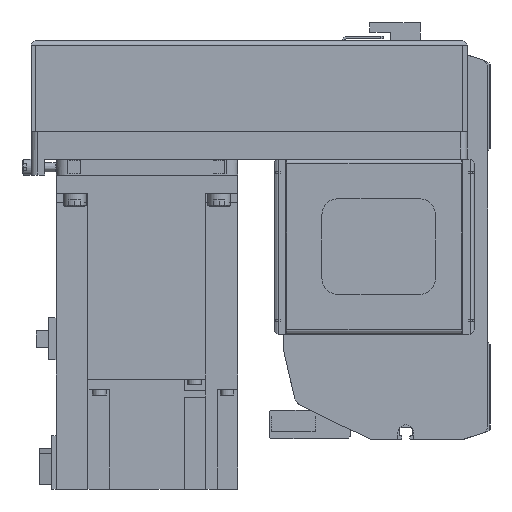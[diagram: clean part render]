
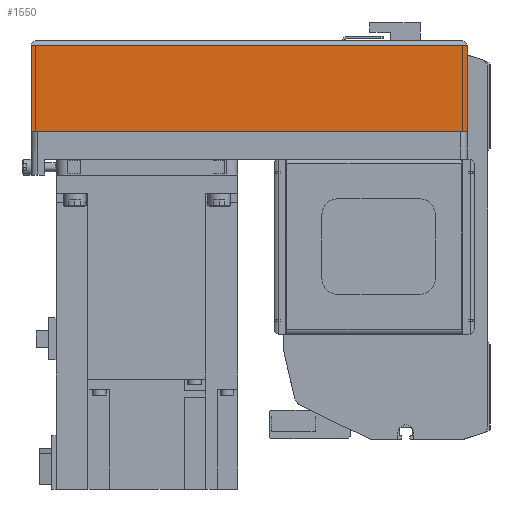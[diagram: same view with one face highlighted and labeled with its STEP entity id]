
A CAD part, left-side view. The second image highlights one B-rep face of the part: STEP entity #1550.
In plain terms, the highlighted planar face has unit normal (-1, 0, 0) as drawn and (0, 1, 0) by its records, which use the part's own axes.
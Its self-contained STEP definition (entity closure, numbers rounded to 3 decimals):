
#1550 = ADVANCED_FACE( '', ( #3986 ), #3987, .T. );
#3986 = FACE_OUTER_BOUND( '', #7542, .T. );
#3987 = PLANE( '', #7543 );
#7542 = EDGE_LOOP( '', ( #11936, #11937, #11938, #11939 ) );
#7543 = AXIS2_PLACEMENT_3D( '', #11940, #11941, #11942 );
#11936 = ORIENTED_EDGE( '', *, *, #20899, .F. );
#11937 = ORIENTED_EDGE( '', *, *, #20900, .F. );
#11938 = ORIENTED_EDGE( '', *, *, #20370, .T. );
#11939 = ORIENTED_EDGE( '', *, *, #20901, .T. );
#11940 = CARTESIAN_POINT( '', ( -192., 40., -50. ) );
#11941 = DIRECTION( '', ( 0., 1., 0. ) );
#11942 = DIRECTION( '', ( 0., 0., 1. ) );
#20370 = EDGE_CURVE( '', #24323, #24328, #24330, .T. );
#20899 = EDGE_CURVE( '', #24315, #25253, #25254, .T. );
#20900 = EDGE_CURVE( '', #24323, #24315, #25255, .T. );
#20901 = EDGE_CURVE( '', #24328, #25253, #25256, .T. );
#24315 = VERTEX_POINT( '', #30204 );
#24323 = VERTEX_POINT( '', #30214 );
#24328 = VERTEX_POINT( '', #30221 );
#24330 = LINE( '', #30224, #30225 );
#25253 = VERTEX_POINT( '', #31521 );
#25254 = LINE( '', #31522, #31523 );
#25255 = LINE( '', #31524, #31525 );
#25256 = LINE( '', #31526, #31527 );
#30204 = CARTESIAN_POINT( '', ( 0., 40., -50. ) );
#30214 = CARTESIAN_POINT( '', ( -192., 40., -50. ) );
#30221 = CARTESIAN_POINT( '', ( -192., 40., -12.1 ) );
#30224 = CARTESIAN_POINT( '', ( -192., 40., -50. ) );
#30225 = VECTOR( '', #38015, 1000. );
#31521 = CARTESIAN_POINT( '', ( 0., 40., -12.1 ) );
#31522 = CARTESIAN_POINT( '', ( 0., 40., -50. ) );
#31523 = VECTOR( '', #38709, 1000. );
#31524 = CARTESIAN_POINT( '', ( -192., 40., -50. ) );
#31525 = VECTOR( '', #38710, 1000. );
#31526 = CARTESIAN_POINT( '', ( -192., 40., -12.1 ) );
#31527 = VECTOR( '', #38711, 1000. );
#38015 = DIRECTION( '', ( 0., 0., 1. ) );
#38709 = DIRECTION( '', ( 0., 0., 1. ) );
#38710 = DIRECTION( '', ( 1., 0., 0. ) );
#38711 = DIRECTION( '', ( 1., 0., 0. ) );
